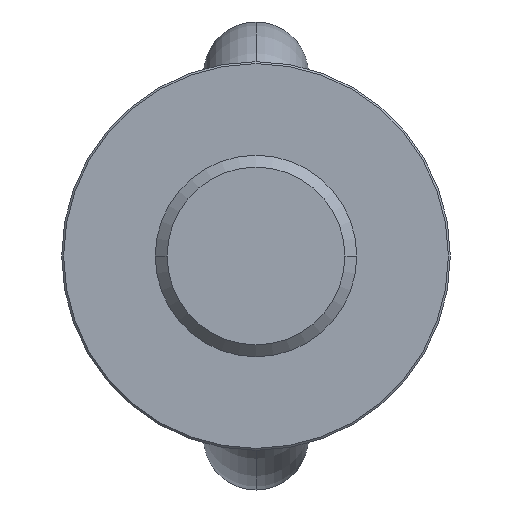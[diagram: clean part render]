
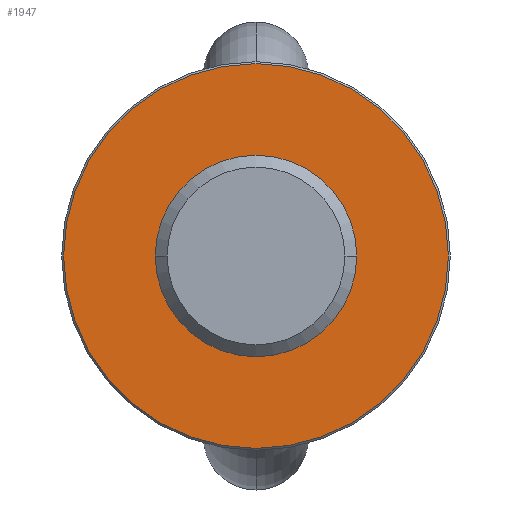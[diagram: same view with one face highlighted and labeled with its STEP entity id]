
A CAD part, front view. The second image highlights one B-rep face of the part: STEP entity #1947.
In plain terms, the highlighted planar face has unit normal (0, -1, 0).
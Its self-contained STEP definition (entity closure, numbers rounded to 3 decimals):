
#5=CARTESIAN_POINT('',(0.,0.,0.));
#6=DIRECTION('',(0.,1.,0.));
#7=DIRECTION('',(1.,0.,0.));
#8=AXIS2_PLACEMENT_3D('',#5,#6,#7);
#14=CARTESIAN_POINT('',(0.,0.,0.));
#15=DIRECTION('',(0.,-1.,0.));
#16=DIRECTION('',(1.,0.,0.));
#17=AXIS2_PLACEMENT_3D('',#14,#15,#16);
#52=CARTESIAN_POINT('',(0.,0.,0.));
#53=DIRECTION('',(0.,-1.,0.));
#54=DIRECTION('',(1.,0.,0.));
#55=AXIS2_PLACEMENT_3D('',#52,#53,#54);
#1477=CARTESIAN_POINT('',(0.,0.,0.));
#1478=DIRECTION('',(0.,1.,0.));
#1479=DIRECTION('',(1.,0.,0.));
#1480=AXIS2_PLACEMENT_3D('',#1477,#1478,#1479);
#1530=CARTESIAN_POINT('',(48.5,0.,0.));
#1531=CARTESIAN_POINT('',(-48.5,0.,0.));
#1532=VERTEX_POINT('',#1530);
#1533=VERTEX_POINT('',#1531);
#1586=CARTESIAN_POINT('',(25.4,0.,0.));
#1588=VERTEX_POINT('',#1586);
#1592=CARTESIAN_POINT('',(-25.4,0.,0.));
#1594=VERTEX_POINT('',#1592);
#1930=CARTESIAN_POINT('',(0.,0.,0.));
#1931=DIRECTION('',(0.,-1.,0.));
#1932=DIRECTION('',(-1.,0.,0.));
#1933=AXIS2_PLACEMENT_3D('',#1930,#1931,#1932);
#1934=PLANE('',#1933);
#1936=ORIENTED_EDGE('',*,*,#1935,.F.);
#1938=ORIENTED_EDGE('',*,*,#1937,.T.);
#1939=EDGE_LOOP('',(#1936,#1938));
#1940=FACE_OUTER_BOUND('',#1939,.F.);
#1942=ORIENTED_EDGE('',*,*,#1941,.F.);
#1944=ORIENTED_EDGE('',*,*,#1943,.T.);
#1945=EDGE_LOOP('',(#1942,#1944));
#1946=FACE_BOUND('',#1945,.F.);
#1947=ADVANCED_FACE('',(#1940,#1946),#1934,.T.);
#9=CIRCLE('',#8,25.4);
#18=CIRCLE('',#17,25.4);
#56=CIRCLE('',#55,48.5);
#1481=CIRCLE('',#1480,48.5);
#1935=EDGE_CURVE('',#1532,#1533,#56,.T.);
#1937=EDGE_CURVE('',#1532,#1533,#1481,.T.);
#1941=EDGE_CURVE('',#1588,#1594,#9,.T.);
#1943=EDGE_CURVE('',#1588,#1594,#18,.T.);
